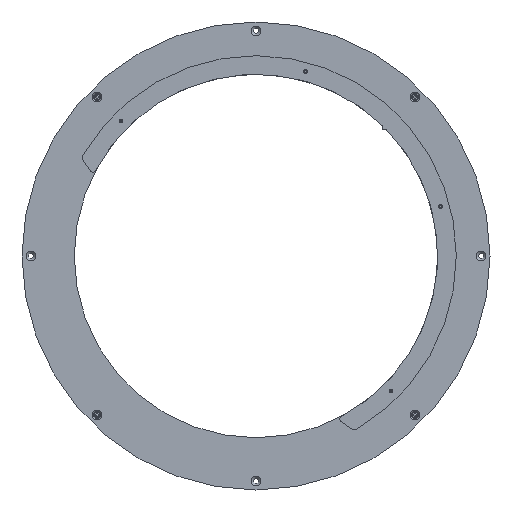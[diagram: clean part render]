
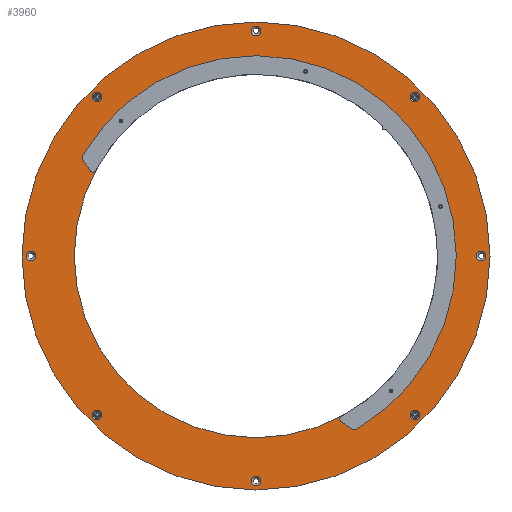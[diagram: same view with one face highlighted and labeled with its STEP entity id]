
A CAD part, front view. The second image highlights one B-rep face of the part: STEP entity #3960.
In plain terms, the highlighted planar face has unit normal (0, -1, 0).
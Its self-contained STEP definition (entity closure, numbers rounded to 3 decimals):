
#499=ORIENTED_EDGE('',*,*,#1130,.F.);
#500=ORIENTED_EDGE('',*,*,#1131,.F.);
#501=ORIENTED_EDGE('',*,*,#1132,.F.);
#502=ORIENTED_EDGE('',*,*,#1133,.F.);
#503=ORIENTED_EDGE('',*,*,#1134,.T.);
#504=ORIENTED_EDGE('',*,*,#1129,.F.);
#505=ORIENTED_EDGE('',*,*,#1098,.F.);
#506=ORIENTED_EDGE('',*,*,#1100,.F.);
#507=ORIENTED_EDGE('',*,*,#1102,.F.);
#508=ORIENTED_EDGE('',*,*,#1104,.F.);
#509=ORIENTED_EDGE('',*,*,#1106,.F.);
#510=ORIENTED_EDGE('',*,*,#1108,.F.);
#511=ORIENTED_EDGE('',*,*,#1110,.F.);
#512=ORIENTED_EDGE('',*,*,#1112,.F.);
#1098=EDGE_CURVE('',#1422,#1422,#1688,.T.);
#1100=EDGE_CURVE('',#1424,#1424,#1690,.T.);
#1102=EDGE_CURVE('',#1426,#1426,#1692,.T.);
#1104=EDGE_CURVE('',#1428,#1428,#1694,.T.);
#1106=EDGE_CURVE('',#1430,#1430,#1696,.T.);
#1108=EDGE_CURVE('',#1432,#1432,#1698,.T.);
#1110=EDGE_CURVE('',#1434,#1434,#1700,.T.);
#1112=EDGE_CURVE('',#1436,#1436,#1702,.T.);
#1129=EDGE_CURVE('',#1453,#1453,#1719,.T.);
#1130=EDGE_CURVE('',#1454,#1454,#1720,.T.);
#1131=EDGE_CURVE('',#1455,#1455,#1721,.T.);
#1132=EDGE_CURVE('',#1456,#1456,#1722,.T.);
#1133=EDGE_CURVE('',#1457,#1457,#1723,.T.);
#1134=EDGE_CURVE('',#1458,#1458,#1724,.T.);
#1422=VERTEX_POINT('',#5447);
#1424=VERTEX_POINT('',#5452);
#1426=VERTEX_POINT('',#5457);
#1428=VERTEX_POINT('',#5462);
#1430=VERTEX_POINT('',#5467);
#1432=VERTEX_POINT('',#5472);
#1434=VERTEX_POINT('',#5477);
#1436=VERTEX_POINT('',#5482);
#1453=VERTEX_POINT('',#5533);
#1454=VERTEX_POINT('',#5536);
#1455=VERTEX_POINT('',#5538);
#1456=VERTEX_POINT('',#5540);
#1457=VERTEX_POINT('',#5542);
#1458=VERTEX_POINT('',#5544);
#1688=CIRCLE('',#4162,3.15);
#1690=CIRCLE('',#4165,3.15);
#1692=CIRCLE('',#4168,3.15);
#1694=CIRCLE('',#4171,3.15);
#1696=CIRCLE('',#4174,3.15);
#1698=CIRCLE('',#4177,3.15);
#1700=CIRCLE('',#4180,3.15);
#1702=CIRCLE('',#4183,3.15);
#1719=CIRCLE('',#4217,117.5);
#1720=CIRCLE('',#4219,2.1);
#1721=CIRCLE('',#4220,2.1);
#1722=CIRCLE('',#4221,2.1);
#1723=CIRCLE('',#4222,2.1);
#1724=CIRCLE('',#4223,151.3);
#1903=EDGE_LOOP('',(#499));
#1904=EDGE_LOOP('',(#500));
#1905=EDGE_LOOP('',(#501));
#1906=EDGE_LOOP('',(#502));
#1907=EDGE_LOOP('',(#503));
#1908=EDGE_LOOP('',(#504));
#1909=EDGE_LOOP('',(#505));
#1910=EDGE_LOOP('',(#506));
#1911=EDGE_LOOP('',(#507));
#1912=EDGE_LOOP('',(#508));
#1913=EDGE_LOOP('',(#509));
#1914=EDGE_LOOP('',(#510));
#1915=EDGE_LOOP('',(#511));
#1916=EDGE_LOOP('',(#512));
#2271=FACE_BOUND('',#1903,.T.);
#2272=FACE_BOUND('',#1904,.T.);
#2273=FACE_BOUND('',#1905,.T.);
#2274=FACE_BOUND('',#1906,.T.);
#2275=FACE_BOUND('',#1907,.T.);
#2276=FACE_BOUND('',#1908,.T.);
#2277=FACE_BOUND('',#1909,.T.);
#2278=FACE_BOUND('',#1910,.T.);
#2279=FACE_BOUND('',#1911,.T.);
#2280=FACE_BOUND('',#1912,.T.);
#2281=FACE_BOUND('',#1913,.T.);
#2282=FACE_BOUND('',#1914,.T.);
#2283=FACE_BOUND('',#1915,.T.);
#2284=FACE_BOUND('',#1916,.T.);
#2584=PLANE('',#4218);
#3960=ADVANCED_FACE('',(#2271,#2272,#2273,#2274,#2275,#2276,#2277,#2278,
#2279,#2280,#2281,#2282,#2283,#2284),#2584,.T.);
#4162=AXIS2_PLACEMENT_3D('',#5446,#4545,#4546);
#4165=AXIS2_PLACEMENT_3D('',#5451,#4551,#4552);
#4168=AXIS2_PLACEMENT_3D('',#5456,#4557,#4558);
#4171=AXIS2_PLACEMENT_3D('',#5461,#4563,#4564);
#4174=AXIS2_PLACEMENT_3D('',#5466,#4569,#4570);
#4177=AXIS2_PLACEMENT_3D('',#5471,#4575,#4576);
#4180=AXIS2_PLACEMENT_3D('',#5476,#4581,#4582);
#4183=AXIS2_PLACEMENT_3D('',#5481,#4587,#4588);
#4217=AXIS2_PLACEMENT_3D('',#5532,#4655,#4656);
#4218=AXIS2_PLACEMENT_3D('',#5534,#4657,#4658);
#4219=AXIS2_PLACEMENT_3D('',#5535,#4659,#4660);
#4220=AXIS2_PLACEMENT_3D('',#5537,#4661,#4662);
#4221=AXIS2_PLACEMENT_3D('',#5539,#4663,#4664);
#4222=AXIS2_PLACEMENT_3D('',#5541,#4665,#4666);
#4223=AXIS2_PLACEMENT_3D('',#5543,#4667,#4668);
#4545=DIRECTION('',(0.,-1.,0.));
#4546=DIRECTION('',(0.,0.,-1.));
#4551=DIRECTION('',(0.,-1.,0.));
#4552=DIRECTION('',(0.,0.,-1.));
#4557=DIRECTION('',(0.,-1.,0.));
#4558=DIRECTION('',(0.,0.,-1.));
#4563=DIRECTION('',(0.,-1.,0.));
#4564=DIRECTION('',(0.,0.,-1.));
#4569=DIRECTION('',(0.,-1.,0.));
#4570=DIRECTION('',(0.,0.,-1.));
#4575=DIRECTION('',(0.,-1.,0.));
#4576=DIRECTION('',(0.,0.,-1.));
#4581=DIRECTION('',(0.,-1.,0.));
#4582=DIRECTION('',(0.,0.,-1.));
#4587=DIRECTION('',(0.,-1.,0.));
#4588=DIRECTION('',(0.,0.,-1.));
#4655=DIRECTION('',(0.,-1.,0.));
#4656=DIRECTION('',(0.,0.,-1.));
#4657=DIRECTION('',(0.,-1.,0.));
#4658=DIRECTION('',(0.,0.,-1.));
#4659=DIRECTION('',(0.,-1.,0.));
#4660=DIRECTION('',(0.,0.,-1.));
#4661=DIRECTION('',(0.,-1.,0.));
#4662=DIRECTION('',(0.,0.,-1.));
#4663=DIRECTION('',(0.,-1.,0.));
#4664=DIRECTION('',(0.,0.,-1.));
#4665=DIRECTION('',(0.,-1.,0.));
#4666=DIRECTION('',(0.,0.,-1.));
#4667=DIRECTION('',(0.,-1.,0.));
#4668=DIRECTION('',(1.,0.,0.));
#5446=CARTESIAN_POINT('',(145.5,-2.,0.));
#5447=CARTESIAN_POINT('',(145.5,-2.,-3.15));
#5451=CARTESIAN_POINT('',(0.,-2.,-145.5));
#5452=CARTESIAN_POINT('',(0.,-2.,-148.65));
#5456=CARTESIAN_POINT('',(-145.5,-2.,0.));
#5457=CARTESIAN_POINT('',(-145.5,-2.,-3.15));
#5461=CARTESIAN_POINT('',(0.,-2.,145.5));
#5462=CARTESIAN_POINT('',(0.,-2.,142.35));
#5466=CARTESIAN_POINT('',(102.884,-2.,-102.884));
#5467=CARTESIAN_POINT('',(102.884,-2.,-106.034));
#5471=CARTESIAN_POINT('',(-102.884,-2.,-102.884));
#5472=CARTESIAN_POINT('',(-102.884,-2.,-106.034));
#5476=CARTESIAN_POINT('',(-102.884,-2.,102.884));
#5477=CARTESIAN_POINT('',(-102.884,-2.,99.734));
#5481=CARTESIAN_POINT('',(102.884,-2.,102.884));
#5482=CARTESIAN_POINT('',(102.884,-2.,99.734));
#5532=CARTESIAN_POINT('',(0.,-2.,0.));
#5533=CARTESIAN_POINT('',(0.,-2.,-117.5));
#5534=CARTESIAN_POINT('',(0.,-2.,0.));
#5535=CARTESIAN_POINT('',(87.328,-2.,-87.328));
#5536=CARTESIAN_POINT('',(87.328,-2.,-89.428));
#5537=CARTESIAN_POINT('',(-87.328,-2.,87.328));
#5538=CARTESIAN_POINT('',(-87.328,-2.,85.228));
#5539=CARTESIAN_POINT('',(31.964,-2.,119.292));
#5540=CARTESIAN_POINT('',(31.964,-2.,117.192));
#5541=CARTESIAN_POINT('',(119.292,-2.,31.964));
#5542=CARTESIAN_POINT('',(119.292,-2.,29.864));
#5543=CARTESIAN_POINT('',(0.,-2.,0.));
#5544=CARTESIAN_POINT('',(151.3,-2.,0.));
